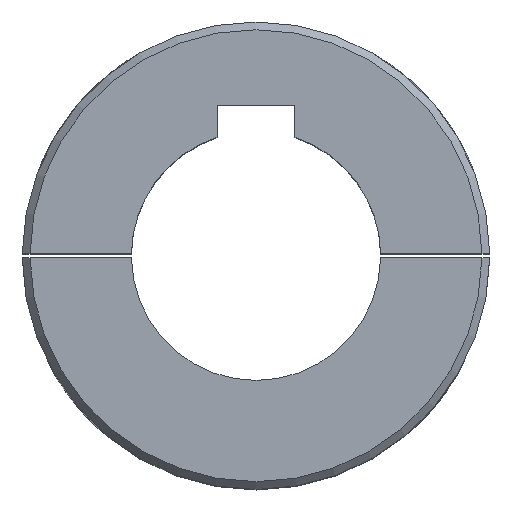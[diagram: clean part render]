
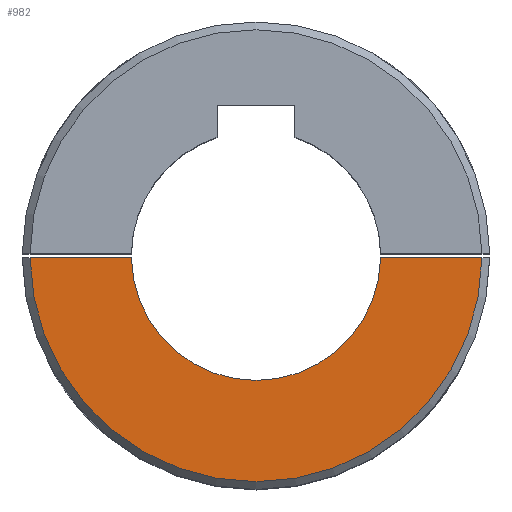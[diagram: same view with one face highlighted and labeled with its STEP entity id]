
A CAD part, top view. The second image highlights one B-rep face of the part: STEP entity #982.
In plain terms, the highlighted planar face has unit normal (0, 0, 1).
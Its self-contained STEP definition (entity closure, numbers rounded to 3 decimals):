
#56 = DIRECTION ( 'NONE',  ( 0., 0., 1. ) ) ;
#67 = DIRECTION ( 'NONE',  ( 1., 0., 0. ) ) ;
#143 = EDGE_CURVE ( 'NONE', #1769, #491, #1447, .T. ) ;
#190 = PLANE ( 'NONE',  #1817 ) ;
#230 = EDGE_CURVE ( 'NONE', #1008, #1769, #1209, .T. ) ;
#277 = VERTEX_POINT ( 'NONE', #892 ) ;
#300 = DIRECTION ( 'NONE',  ( 0., 0., 1. ) ) ;
#369 = EDGE_CURVE ( 'NONE', #1008, #277, #1024, .T. ) ;
#387 = ORIENTED_EDGE ( 'NONE', *, *, #1775, .F. ) ;
#426 = DIRECTION ( 'NONE',  ( 1., 0., 0. ) ) ;
#491 = VERTEX_POINT ( 'NONE', #1318 ) ;
#517 = DIRECTION ( 'NONE',  ( 1., 0., 0. ) ) ;
#570 = CARTESIAN_POINT ( 'NONE',  ( 0., -0.25, 40. ) ) ;
#617 = VECTOR ( 'NONE', #426, 1000. ) ;
#669 = CARTESIAN_POINT ( 'NONE',  ( -28.999, -0.25, 40. ) ) ;
#679 = ORIENTED_EDGE ( 'NONE', *, *, #369, .T. ) ;
#790 = AXIS2_PLACEMENT_3D ( 'NONE', #1999, #56, #517 ) ;
#892 = CARTESIAN_POINT ( 'NONE',  ( 28.999, -0.25, 40. ) ) ;
#967 = CARTESIAN_POINT ( 'NONE',  ( 0., 0., 40. ) ) ;
#982 = ADVANCED_FACE ( 'NONE', ( #1792 ), #190, .T. ) ;
#1008 = VERTEX_POINT ( 'NONE', #669 ) ;
#1024 = CIRCLE ( 'NONE', #1272, 29. ) ;
#1057 = VECTOR ( 'NONE', #67, 1000. ) ;
#1087 = CARTESIAN_POINT ( 'NONE',  ( -15.998, -0.25, 40. ) ) ;
#1102 = CARTESIAN_POINT ( 'NONE',  ( 0., 0., 40. ) ) ;
#1134 = ORIENTED_EDGE ( 'NONE', *, *, #230, .F. ) ;
#1154 = DIRECTION ( 'NONE',  ( 0., 0., 1. ) ) ;
#1209 = LINE ( 'NONE', #570, #1057 ) ;
#1272 = AXIS2_PLACEMENT_3D ( 'NONE', #1102, #300, #1764 ) ;
#1318 = CARTESIAN_POINT ( 'NONE',  ( 15.998, -0.25, 40. ) ) ;
#1447 = CIRCLE ( 'NONE', #790, 16. ) ;
#1487 = ORIENTED_EDGE ( 'NONE', *, *, #143, .F. ) ;
#1760 = LINE ( 'NONE', #1904, #617 ) ;
#1764 = DIRECTION ( 'NONE',  ( 1., 0., 0. ) ) ;
#1769 = VERTEX_POINT ( 'NONE', #1087 ) ;
#1775 = EDGE_CURVE ( 'NONE', #491, #277, #1760, .T. ) ;
#1792 = FACE_OUTER_BOUND ( 'NONE', #2000, .T. ) ;
#1817 = AXIS2_PLACEMENT_3D ( 'NONE', #967, #1154, #1820 ) ;
#1820 = DIRECTION ( 'NONE',  ( 1., 0., 0. ) ) ;
#1904 = CARTESIAN_POINT ( 'NONE',  ( 0., -0.25, 40. ) ) ;
#1999 = CARTESIAN_POINT ( 'NONE',  ( 0., 0., 40. ) ) ;
#2000 = EDGE_LOOP ( 'NONE', ( #1134, #679, #387, #1487 ) ) ;
